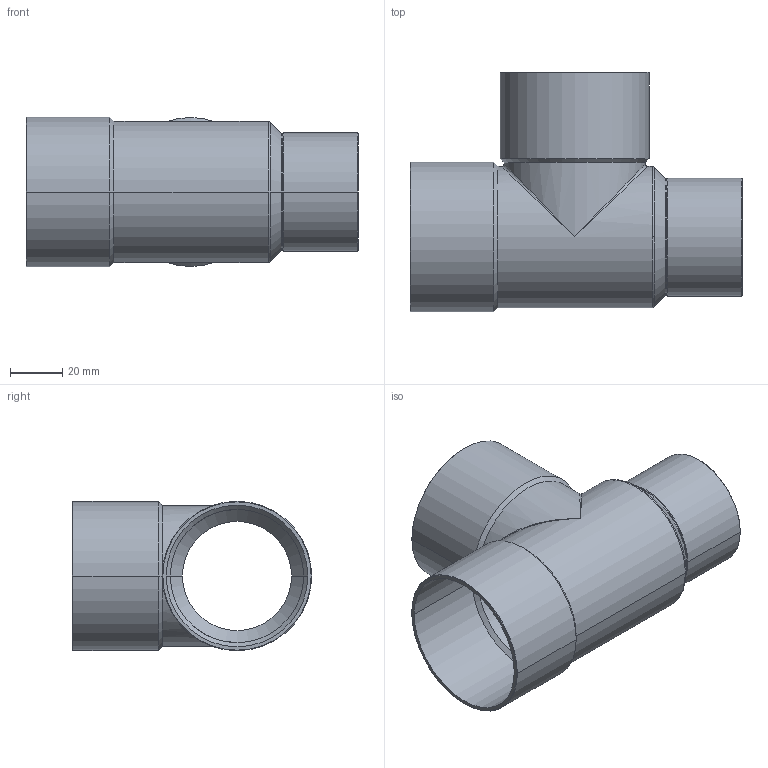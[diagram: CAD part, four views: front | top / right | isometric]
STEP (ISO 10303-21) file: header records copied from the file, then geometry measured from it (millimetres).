
FILE_DESCRIPTION((''),'2;1');
FILE_NAME('G:\Technics\CAD\Bauteile\15130\15130545442.stp','2005-11-03T13:43:21',('boden'),(''),'Autodesk Inventor 8','Autodesk Inventor 8','');
FILE_SCHEMA(('AUTOMOTIVE_DESIGN { 1 0 10303 214 1 1 1 1 }'));
Length unit declared in the file: millimetre
Products named in the file (1): 15130545442
Bounding box: 127 x 91.58 x 57.15 mm (x, y, z)
Volume: 38879.5 mm3; surface area: 52700.9 mm2
Topology: 1 solids, 1 shells, 59 faces, 138 edges, 72 vertices
Faces by surface type: cone 26, cylinder 24, bspline 4, plane 3, torus 2
Entity records: 2089 total; most frequent: CARTESIAN_POINT 746, DIRECTION 304, ORIENTED_EDGE 260, EDGE_CURVE 130, AXIS2_PLACEMENT_3D 126, VERTEX_POINT 72, CIRCLE 62, EDGE_LOOP 62
